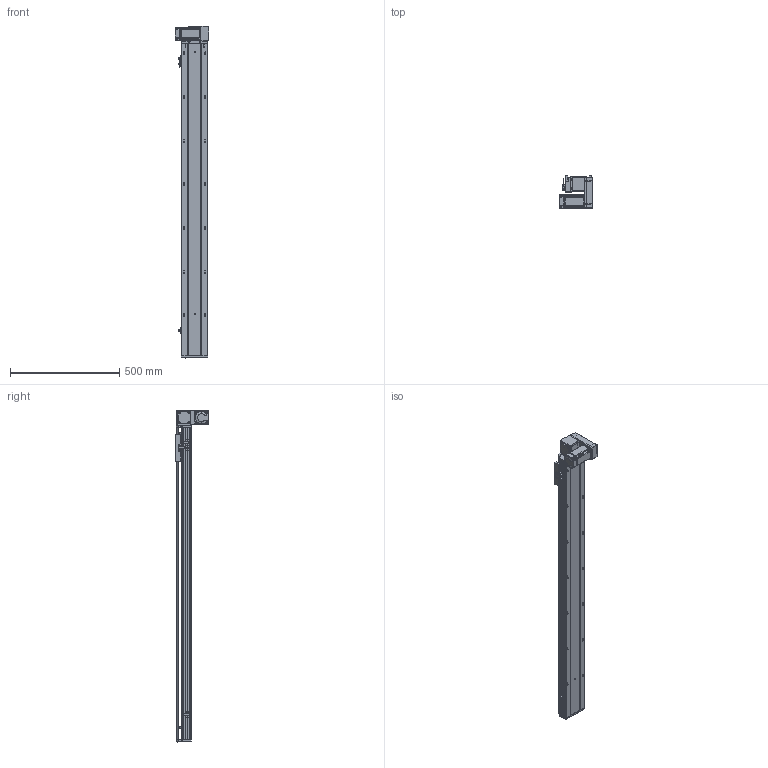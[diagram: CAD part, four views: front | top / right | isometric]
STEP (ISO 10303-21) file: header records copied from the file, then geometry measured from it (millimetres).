
FILE_DESCRIPTION (( 'STEP AP203' ), '1' );
FILE_NAME ('RY120-T-300-DR.SLDASM_1200.step', '2021-03-01T03:36:04', ( '盈信电脑' ), ( '东莞市道滘镇水果街19号' ), 'SwSTEP 2.0', 'SolidWorks 2012', '' );
FILE_SCHEMA (( 'CONFIG_CONTROL_DESIGN' ));
Length unit declared in the file: millimetre
Products named in the file (17): RY120-T蹟翐M4; RY120-T主同步轮轴承压盖; RY120-T萇儂欶; RY120-T-300-DR.SLDASM_1200; RY120-T萇儂假蚾啣; RY120-T翋肮祭謫裔啣; 15; 滅袉蝶18-10; RY120-T翋肮祭盓傅釱; RY120-T肮祭湍揤踡輸2; RY120-T肮祭湍揤踡輸1; RY120外置感应片(140共用）; RY120綴裔啣; 覜茼ん672; RY120肮祭湍臏賑輸; RY120-T-300-DR倰第菁釱_1200; RY120-T-300-DR倰第奻裔啣_1200
Assembly tree (22 placements, depth 2):
  RY120-T-300-DR.SLDASM_1200
    RY120-T-300-DR倰第菁釱_1200
    RY120-T-300-DR倰第奻裔啣_1200
    RY120肮祭湍臏賑輸
    RY120綴裔啣
    覜茼ん672  x3
    RY120外置感应片(140共用）
    RY120-T肮祭湍揤踡輸1
    RY120-T肮祭湍揤踡輸2
    RY120-T翋肮祭盓傅釱
    滅袉蝶18-10  x2
    RY120-T翋肮祭謫裔啣
    15
    RY120-T萇儂假蚾啣
    RY120-T蹟翐M4  x4
    RY120-T萇儂欶
    RY120-T主同步轮轴承压盖
Bounding box: 155.5 x 150 x 1521 mm (x, y, z)
Volume: 4056572.9 mm3; surface area: 1523750 mm2
Topology: 23 solids, 23 shells, 2844 faces, 7740 edges, 4950 vertices
Faces by surface type: plane 1412, cylinder 1078, cone 265, bspline 89
Entity records: 90129 total; most frequent: CARTESIAN_POINT 22764, ORIENTED_EDGE 13872, DIRECTION 13182, EDGE_CURVE 6936, VERTEX_POINT 4537, AXIS2_PLACEMENT_3D 4423, VECTOR 4336, LINE 4336
